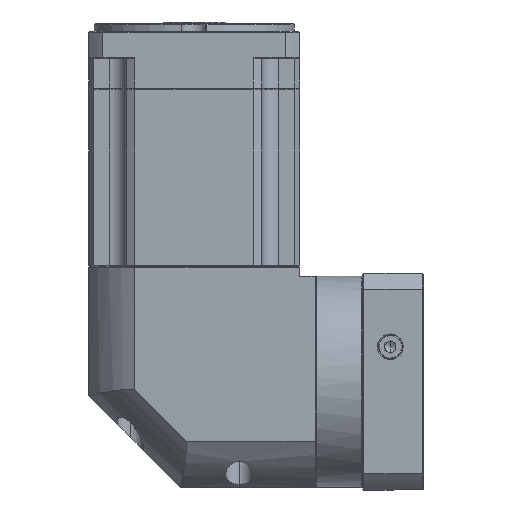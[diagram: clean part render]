
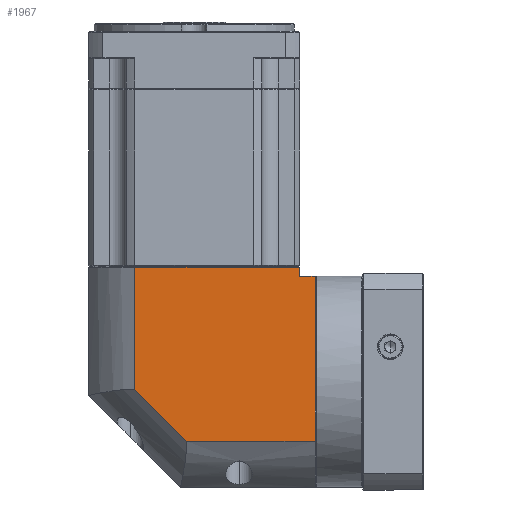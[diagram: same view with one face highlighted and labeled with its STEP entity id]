
A CAD part, left-side view. The second image highlights one B-rep face of the part: STEP entity #1967.
In plain terms, the highlighted planar face has unit normal (-1, 0, 0).
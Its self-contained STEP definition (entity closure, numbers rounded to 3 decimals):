
#1967 = ADVANCED_FACE ( 'NONE', ( #44002 ), #82332, .F. ) ;
#2095 = VERTEX_POINT ( 'NONE', #84600 ) ;
#11194 = VECTOR ( 'NONE', #85328, 1000. ) ;
#12884 = DIRECTION ( 'NONE',  ( 0., 0.707, 0.707 ) ) ;
#13180 = EDGE_LOOP ( 'NONE', ( #37077, #70673, #22609, #109865, #67980, #92469, #18339 ) ) ;
#18339 = ORIENTED_EDGE ( 'NONE', *, *, #31844, .F. ) ;
#21544 = EDGE_CURVE ( 'NONE', #132198, #23408, #102205, .T. ) ;
#21747 = DIRECTION ( 'NONE',  ( 0., 1., 0. ) ) ;
#22609 = ORIENTED_EDGE ( 'NONE', *, *, #94385, .F. ) ;
#23408 = VERTEX_POINT ( 'NONE', #89944 ) ;
#25643 = VERTEX_POINT ( 'NONE', #25785 ) ;
#25785 = CARTESIAN_POINT ( 'NONE',  ( -253.559, 12.277, 45.173 ) ) ;
#25918 = CARTESIAN_POINT ( 'NONE',  ( -253.559, -16.061, -49.727 ) ) ;
#26497 = LINE ( 'NONE', #25918, #91607 ) ;
#28396 = VERTEX_POINT ( 'NONE', #148247 ) ;
#31844 = EDGE_CURVE ( 'NONE', #25643, #35340, #114956, .T. ) ;
#33032 = VECTOR ( 'NONE', #88980, 1000. ) ;
#33587 = CARTESIAN_POINT ( 'NONE',  ( -253.559, 37.378, 45.173 ) ) ;
#35340 = VERTEX_POINT ( 'NONE', #106823 ) ;
#37061 = DIRECTION ( 'NONE',  ( 0., 0., 1. ) ) ;
#37077 = ORIENTED_EDGE ( 'NONE', *, *, #50364, .F. ) ;
#37870 = LINE ( 'NONE', #125889, #137501 ) ;
#40437 = VECTOR ( 'NONE', #21747, 1000. ) ;
#44002 = FACE_OUTER_BOUND ( 'NONE', #13180, .T. ) ;
#47243 = EDGE_CURVE ( 'NONE', #28396, #2095, #26497, .T. ) ;
#50364 = EDGE_CURVE ( 'NONE', #2095, #25643, #67735, .T. ) ;
#56781 = DIRECTION ( 'NONE',  ( 1., 0., 0. ) ) ;
#60441 = CARTESIAN_POINT ( 'NONE',  ( -253.559, 37.378, -49.727 ) ) ;
#67735 = LINE ( 'NONE', #127988, #163132 ) ;
#67980 = ORIENTED_EDGE ( 'NONE', *, *, #21544, .T. ) ;
#70673 = ORIENTED_EDGE ( 'NONE', *, *, #47243, .F. ) ;
#72472 = CARTESIAN_POINT ( 'NONE',  ( -253.559, -86.022, 40.173 ) ) ;
#82035 = VECTOR ( 'NONE', #109438, 1000. ) ;
#82332 = PLANE ( 'NONE',  #136227 ) ;
#84600 = CARTESIAN_POINT ( 'NONE',  ( -253.559, 12.277, -21.389 ) ) ;
#85328 = DIRECTION ( 'NONE',  ( 0., -1., 0. ) ) ;
#88980 = DIRECTION ( 'NONE',  ( 0., 1., 0. ) ) ;
#89944 = CARTESIAN_POINT ( 'NONE',  ( -253.559, -77.622, 40.173 ) ) ;
#91607 = VECTOR ( 'NONE', #12884, 1000. ) ;
#92469 = ORIENTED_EDGE ( 'NONE', *, *, #131026, .T. ) ;
#94385 = EDGE_CURVE ( 'NONE', #117449, #28396, #105499, .T. ) ;
#102205 = LINE ( 'NONE', #113405, #33032 ) ;
#105499 = LINE ( 'NONE', #60441, #40437 ) ;
#106823 = CARTESIAN_POINT ( 'NONE',  ( -253.559, -77.622, 45.173 ) ) ;
#108804 = EDGE_CURVE ( 'NONE', #132198, #117449, #151083, .T. ) ;
#109438 = DIRECTION ( 'NONE',  ( 0., 0., -1. ) ) ;
#109865 = ORIENTED_EDGE ( 'NONE', *, *, #108804, .F. ) ;
#113405 = CARTESIAN_POINT ( 'NONE',  ( -253.559, -77.622, 40.173 ) ) ;
#114956 = LINE ( 'NONE', #33587, #11194 ) ;
#117449 = VERTEX_POINT ( 'NONE', #163184 ) ;
#125889 = CARTESIAN_POINT ( 'NONE',  ( -253.559, -77.622, -74.827 ) ) ;
#127988 = CARTESIAN_POINT ( 'NONE',  ( -253.559, 12.277, 51.673 ) ) ;
#131026 = EDGE_CURVE ( 'NONE', #23408, #35340, #37870, .T. ) ;
#132198 = VERTEX_POINT ( 'NONE', #72472 ) ;
#134576 = CARTESIAN_POINT ( 'NONE',  ( -253.559, 37.378, 51.673 ) ) ;
#135020 = CARTESIAN_POINT ( 'NONE',  ( -253.559, -86.022, 51.673 ) ) ;
#136227 = AXIS2_PLACEMENT_3D ( 'NONE', #134576, #56781, #147587 ) ;
#137501 = VECTOR ( 'NONE', #152459, 1000. ) ;
#147587 = DIRECTION ( 'NONE',  ( 0., 1., 0. ) ) ;
#148247 = CARTESIAN_POINT ( 'NONE',  ( -253.559, -16.061, -49.727 ) ) ;
#151083 = LINE ( 'NONE', #135020, #82035 ) ;
#152459 = DIRECTION ( 'NONE',  ( 0., 0., 1. ) ) ;
#163132 = VECTOR ( 'NONE', #37061, 1000. ) ;
#163184 = CARTESIAN_POINT ( 'NONE',  ( -253.559, -86.022, -49.727 ) ) ;
